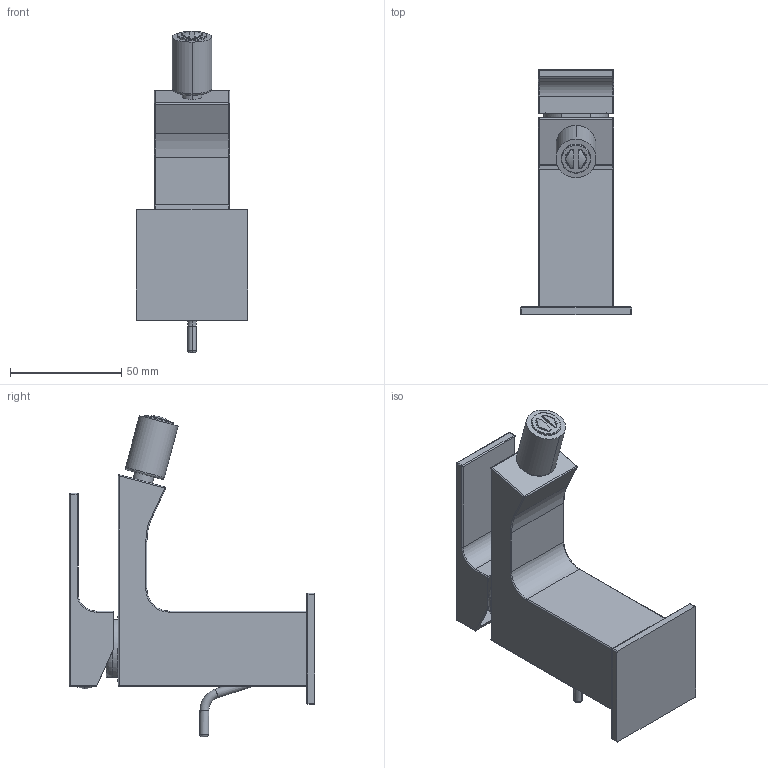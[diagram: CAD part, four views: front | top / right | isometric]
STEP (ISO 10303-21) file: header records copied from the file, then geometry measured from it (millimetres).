
FILE_DESCRIPTION((''),'2;1');
FILE_NAME('35103_SW0001','2024-07-19T16:38:02',('carloff'),(''),'CREO PARAMETRIC BY PTC INC, 2022014','CREO PARAMETRIC BY PTC INC, 2022014','');
FILE_SCHEMA(('CONFIG_CONTROL_DESIGN'));
Length unit declared in the file: millimetre
Products named in the file (1): 35103_SW0001
Bounding box: 50 x 110.4 x 144.67 mm (x, y, z)
Volume: 165155.1 mm3; surface area: 37371.7 mm2
Topology: 1 solids, 1 shells, 396 faces, 1056 edges, 659 vertices
Faces by surface type: plane 126, cylinder 104, torus 103, bspline 26, sphere 24, cone 13
Entity records: 19438 total; most frequent: CARTESIAN_POINT 9919, ORIENTED_EDGE 2100, DIRECTION 1890, EDGE_CURVE 1050, AXIS2_PLACEMENT_3D 761, VERTEX_POINT 659, EDGE_LOOP 409, FACE_OUTER_BOUND 396
